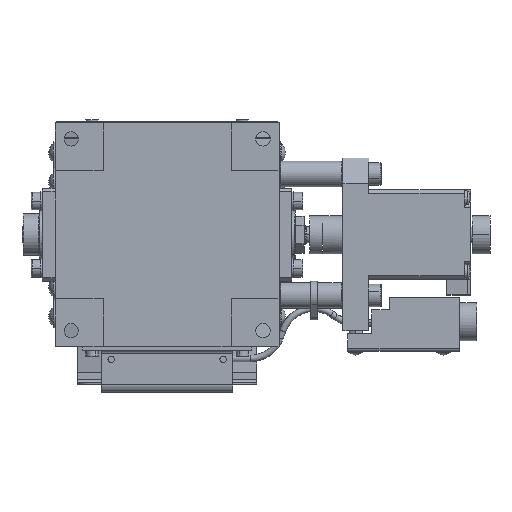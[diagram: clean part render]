
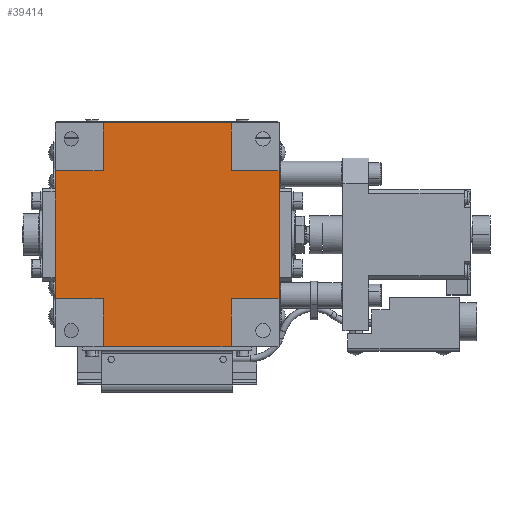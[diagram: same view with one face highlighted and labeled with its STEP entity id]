
A CAD part, front view. The second image highlights one B-rep face of the part: STEP entity #39414.
In plain terms, the highlighted planar face has unit normal (0, -1, 0).
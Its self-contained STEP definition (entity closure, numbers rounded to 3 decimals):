
#929 = VECTOR ( 'NONE', #5094, 1000. ) ;
#1563 = EDGE_CURVE ( 'NONE', #23919, #11435, #5570, .T. ) ;
#2279 = EDGE_CURVE ( 'NONE', #3675, #23919, #3529, .T. ) ;
#2811 = EDGE_CURVE ( 'NONE', #29923, #13523, #19970, .T. ) ;
#3529 = LINE ( 'NONE', #37030, #7986 ) ;
#3553 = CARTESIAN_POINT ( 'NONE',  ( 20., 0.3, -20. ) ) ;
#3675 = VERTEX_POINT ( 'NONE', #39812 ) ;
#3769 = LINE ( 'NONE', #38021, #36856 ) ;
#4457 = CARTESIAN_POINT ( 'NONE',  ( 20., 0.3, -35. ) ) ;
#4615 = DIRECTION ( 'NONE',  ( -1., 0., 0. ) ) ;
#4706 = CARTESIAN_POINT ( 'NONE',  ( -20., 0.3, 35. ) ) ;
#4808 = ORIENTED_EDGE ( 'NONE', *, *, #14985, .T. ) ;
#4877 = CARTESIAN_POINT ( 'NONE',  ( 20., 0.3, -20. ) ) ;
#5094 = DIRECTION ( 'NONE',  ( 0., 0., -1. ) ) ;
#5111 = LINE ( 'NONE', #26755, #17131 ) ;
#5131 = DIRECTION ( 'NONE',  ( -1., 0., 0. ) ) ;
#5529 = LINE ( 'NONE', #8383, #20556 ) ;
#5570 = LINE ( 'NONE', #33687, #8551 ) ;
#6365 = CARTESIAN_POINT ( 'NONE',  ( -20., 0.3, -35. ) ) ;
#7034 = CARTESIAN_POINT ( 'NONE',  ( -20., 0.3, 20. ) ) ;
#7173 = FACE_OUTER_BOUND ( 'NONE', #18673, .T. ) ;
#7595 = CARTESIAN_POINT ( 'NONE',  ( -35., 0.3, 20. ) ) ;
#7986 = VECTOR ( 'NONE', #40671, 1000. ) ;
#8383 = CARTESIAN_POINT ( 'NONE',  ( 35., 0.3, 20. ) ) ;
#8551 = VECTOR ( 'NONE', #5131, 1000. ) ;
#8867 = ORIENTED_EDGE ( 'NONE', *, *, #17055, .T. ) ;
#9164 = DIRECTION ( 'NONE',  ( 1., 0., 0. ) ) ;
#9860 = DIRECTION ( 'NONE',  ( 0., 0., -1. ) ) ;
#11062 = VERTEX_POINT ( 'NONE', #15514 ) ;
#11435 = VERTEX_POINT ( 'NONE', #4706 ) ;
#11457 = CARTESIAN_POINT ( 'NONE',  ( -35., 0.3, 20. ) ) ;
#12672 = VECTOR ( 'NONE', #29468, 1000. ) ;
#12885 = LINE ( 'NONE', #14369, #929 ) ;
#13523 = VERTEX_POINT ( 'NONE', #7595 ) ;
#14369 = CARTESIAN_POINT ( 'NONE',  ( -20., 0.3, -35. ) ) ;
#14657 = LINE ( 'NONE', #6365, #18651 ) ;
#14985 = EDGE_CURVE ( 'NONE', #13523, #32674, #3769, .T. ) ;
#15514 = CARTESIAN_POINT ( 'NONE',  ( 35., 0.3, 20. ) ) ;
#15978 = VECTOR ( 'NONE', #9860, 1000. ) ;
#16055 = AXIS2_PLACEMENT_3D ( 'NONE', #33710, #30613, #4615 ) ;
#16533 = VERTEX_POINT ( 'NONE', #35245 ) ;
#16925 = ORIENTED_EDGE ( 'NONE', *, *, #2279, .T. ) ;
#16983 = EDGE_CURVE ( 'NONE', #21899, #37333, #14657, .T. ) ;
#17055 = EDGE_CURVE ( 'NONE', #32674, #16533, #28582, .T. ) ;
#17131 = VECTOR ( 'NONE', #20772, 1000. ) ;
#17330 = ORIENTED_EDGE ( 'NONE', *, *, #23219, .T. ) ;
#18424 = DIRECTION ( 'NONE',  ( 0., 0., -1. ) ) ;
#18600 = DIRECTION ( 'NONE',  ( 0., 0., 1. ) ) ;
#18651 = VECTOR ( 'NONE', #35342, 1000. ) ;
#18673 = EDGE_LOOP ( 'NONE', ( #17330, #31824, #29855, #16925, #28312, #40911, #32710, #4808, #8867, #20060, #37717, #28222 ) ) ;
#19066 = EDGE_CURVE ( 'NONE', #11435, #29923, #19454, .T. ) ;
#19454 = LINE ( 'NONE', #7034, #15978 ) ;
#19970 = LINE ( 'NONE', #11457, #41539 ) ;
#20060 = ORIENTED_EDGE ( 'NONE', *, *, #27695, .T. ) ;
#20556 = VECTOR ( 'NONE', #18600, 1000. ) ;
#20772 = DIRECTION ( 'NONE',  ( -1., 0., 0. ) ) ;
#21899 = VERTEX_POINT ( 'NONE', #36479 ) ;
#22603 = VECTOR ( 'NONE', #9164, 1000. ) ;
#22683 = VERTEX_POINT ( 'NONE', #28783 ) ;
#23219 = EDGE_CURVE ( 'NONE', #41462, #22683, #34262, .T. ) ;
#23913 = DIRECTION ( 'NONE',  ( -1., 0., 0. ) ) ;
#23919 = VERTEX_POINT ( 'NONE', #24389 ) ;
#24178 = PLANE ( 'NONE',  #16055 ) ;
#24389 = CARTESIAN_POINT ( 'NONE',  ( 20., 0.3, 35. ) ) ;
#24656 = CARTESIAN_POINT ( 'NONE',  ( -20., 0.3, 20. ) ) ;
#26020 = EDGE_CURVE ( 'NONE', #22683, #11062, #5529, .T. ) ;
#26755 = CARTESIAN_POINT ( 'NONE',  ( 20., 0.3, 20. ) ) ;
#27695 = EDGE_CURVE ( 'NONE', #16533, #21899, #12885, .T. ) ;
#28222 = ORIENTED_EDGE ( 'NONE', *, *, #39831, .T. ) ;
#28312 = ORIENTED_EDGE ( 'NONE', *, *, #1563, .T. ) ;
#28582 = LINE ( 'NONE', #28887, #22603 ) ;
#28783 = CARTESIAN_POINT ( 'NONE',  ( 35., 0.3, -20. ) ) ;
#28887 = CARTESIAN_POINT ( 'NONE',  ( -35., 0.3, -20. ) ) ;
#29468 = DIRECTION ( 'NONE',  ( 0., 0., 1. ) ) ;
#29670 = LINE ( 'NONE', #4457, #12672 ) ;
#29855 = ORIENTED_EDGE ( 'NONE', *, *, #31746, .T. ) ;
#29923 = VERTEX_POINT ( 'NONE', #24656 ) ;
#30613 = DIRECTION ( 'NONE',  ( 0., 1., 0. ) ) ;
#31108 = CARTESIAN_POINT ( 'NONE',  ( 20., 0.3, -35. ) ) ;
#31582 = CARTESIAN_POINT ( 'NONE',  ( -35., 0.3, -20. ) ) ;
#31746 = EDGE_CURVE ( 'NONE', #11062, #3675, #5111, .T. ) ;
#31824 = ORIENTED_EDGE ( 'NONE', *, *, #26020, .T. ) ;
#32674 = VERTEX_POINT ( 'NONE', #31582 ) ;
#32710 = ORIENTED_EDGE ( 'NONE', *, *, #2811, .T. ) ;
#33687 = CARTESIAN_POINT ( 'NONE',  ( -20., 0.3, 35. ) ) ;
#33710 = CARTESIAN_POINT ( 'NONE',  ( 0., 0.3, 0. ) ) ;
#34262 = LINE ( 'NONE', #4877, #40325 ) ;
#35245 = CARTESIAN_POINT ( 'NONE',  ( -20., 0.3, -20. ) ) ;
#35342 = DIRECTION ( 'NONE',  ( 1., 0., 0. ) ) ;
#36479 = CARTESIAN_POINT ( 'NONE',  ( -20., 0.3, -35. ) ) ;
#36551 = DIRECTION ( 'NONE',  ( 1., 0., 0. ) ) ;
#36856 = VECTOR ( 'NONE', #18424, 1000. ) ;
#37030 = CARTESIAN_POINT ( 'NONE',  ( 20., 0.3, 20. ) ) ;
#37333 = VERTEX_POINT ( 'NONE', #31108 ) ;
#37717 = ORIENTED_EDGE ( 'NONE', *, *, #16983, .T. ) ;
#38021 = CARTESIAN_POINT ( 'NONE',  ( -35., 0.3, 20. ) ) ;
#39414 = ADVANCED_FACE ( 'NONE', ( #7173 ), #24178, .F. ) ;
#39812 = CARTESIAN_POINT ( 'NONE',  ( 20., 0.3, 20. ) ) ;
#39831 = EDGE_CURVE ( 'NONE', #37333, #41462, #29670, .T. ) ;
#40325 = VECTOR ( 'NONE', #36551, 1000. ) ;
#40671 = DIRECTION ( 'NONE',  ( 0., 0., 1. ) ) ;
#40911 = ORIENTED_EDGE ( 'NONE', *, *, #19066, .T. ) ;
#41462 = VERTEX_POINT ( 'NONE', #3553 ) ;
#41539 = VECTOR ( 'NONE', #23913, 1000. ) ;
